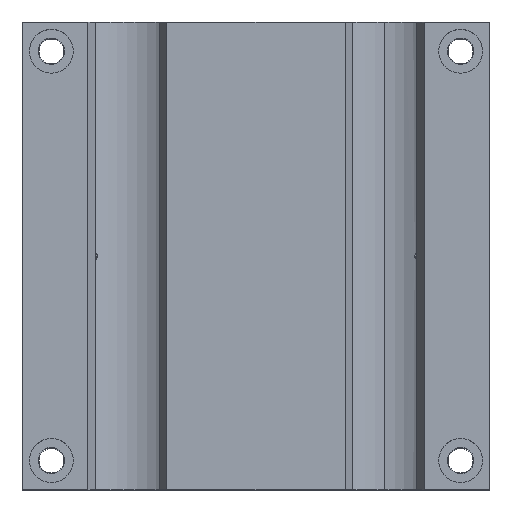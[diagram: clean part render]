
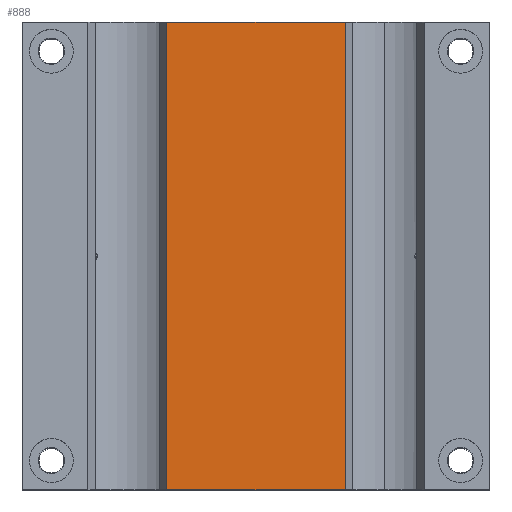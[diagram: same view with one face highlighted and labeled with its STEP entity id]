
A CAD part, top view. The second image highlights one B-rep face of the part: STEP entity #888.
In plain terms, the highlighted planar face has unit normal (0, 0, 1).
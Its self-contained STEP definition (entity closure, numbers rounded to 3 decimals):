
#90 = CARTESIAN_POINT ( 'NONE',  ( 30.518, 80., 25.5 ) ) ;
#134 = VECTOR ( 'NONE', #2226, 1000. ) ;
#285 = VERTEX_POINT ( 'NONE', #1689 ) ;
#355 = ORIENTED_EDGE ( 'NONE', *, *, #873, .F. ) ;
#407 = AXIS2_PLACEMENT_3D ( 'NONE', #1268, #2043, #2999 ) ;
#464 = VERTEX_POINT ( 'NONE', #1610 ) ;
#716 = ORIENTED_EDGE ( 'NONE', *, *, #2954, .T. ) ;
#833 = ORIENTED_EDGE ( 'NONE', *, *, #2412, .T. ) ;
#857 = VERTEX_POINT ( 'NONE', #90 ) ;
#873 = EDGE_CURVE ( 'NONE', #285, #464, #2296, .T. ) ;
#888 = ADVANCED_FACE ( 'NONE', ( #1034 ), #1749, .T. ) ;
#1034 = FACE_OUTER_BOUND ( 'NONE', #2328, .T. ) ;
#1069 = DIRECTION ( 'NONE',  ( 0., 1., 0. ) ) ;
#1221 = CARTESIAN_POINT ( 'NONE',  ( 30.518, -80., 25.5 ) ) ;
#1237 = DIRECTION ( 'NONE',  ( 0., 1., 0. ) ) ;
#1268 = CARTESIAN_POINT ( 'NONE',  ( 0., 0., 25.5 ) ) ;
#1479 = LINE ( 'NONE', #1221, #2133 ) ;
#1610 = CARTESIAN_POINT ( 'NONE',  ( -30.518, 80., 25.5 ) ) ;
#1632 = DIRECTION ( 'NONE',  ( 1., 0., 0. ) ) ;
#1648 = ORIENTED_EDGE ( 'NONE', *, *, #2819, .T. ) ;
#1689 = CARTESIAN_POINT ( 'NONE',  ( -30.518, -80., 25.5 ) ) ;
#1749 = PLANE ( 'NONE',  #407 ) ;
#1780 = CARTESIAN_POINT ( 'NONE',  ( -30.518, -80., 25.5 ) ) ;
#1925 = VECTOR ( 'NONE', #1069, 1000. ) ;
#1981 = VECTOR ( 'NONE', #1632, 1000. ) ;
#1991 = LINE ( 'NONE', #2934, #134 ) ;
#2043 = DIRECTION ( 'NONE',  ( 0., 0., 1. ) ) ;
#2109 = LINE ( 'NONE', #2832, #1981 ) ;
#2133 = VECTOR ( 'NONE', #1237, 1000. ) ;
#2226 = DIRECTION ( 'NONE',  ( -1., 0., 0. ) ) ;
#2296 = LINE ( 'NONE', #1780, #1925 ) ;
#2310 = CARTESIAN_POINT ( 'NONE',  ( 30.518, -80., 25.5 ) ) ;
#2328 = EDGE_LOOP ( 'NONE', ( #1648, #716, #833, #355 ) ) ;
#2412 = EDGE_CURVE ( 'NONE', #857, #464, #1991, .T. ) ;
#2819 = EDGE_CURVE ( 'NONE', #285, #3003, #2109, .T. ) ;
#2832 = CARTESIAN_POINT ( 'NONE',  ( -80., -80., 25.5 ) ) ;
#2934 = CARTESIAN_POINT ( 'NONE',  ( -80., 80., 25.5 ) ) ;
#2954 = EDGE_CURVE ( 'NONE', #3003, #857, #1479, .T. ) ;
#2999 = DIRECTION ( 'NONE',  ( 1., 0., 0. ) ) ;
#3003 = VERTEX_POINT ( 'NONE', #2310 ) ;
